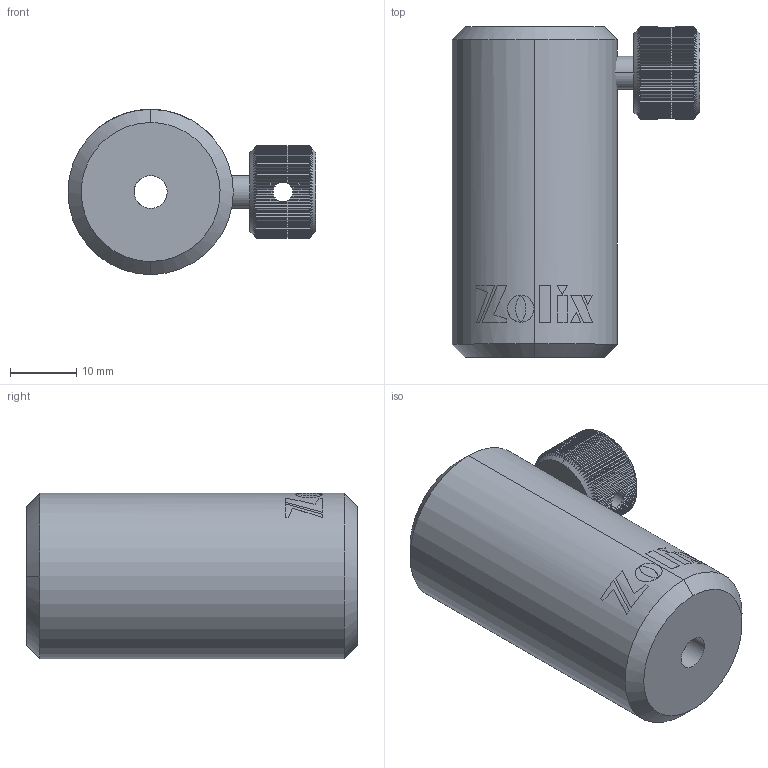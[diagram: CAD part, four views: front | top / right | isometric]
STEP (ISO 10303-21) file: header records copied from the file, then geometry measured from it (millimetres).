
FILE_DESCRIPTION (( 'STEP AP203' ), '1' );
FILE_NAME ('PHSH-2.STEP', '2019-05-10T02:26:00', ( '' ), ( '' ), 'SwSTEP 2.0', 'SolidWorks 2016', '' );
FILE_SCHEMA (( 'CONFIG_CONTROL_DESIGN' ));
Length unit declared in the file: millimetre
Products named in the file (1): PHSH-2
Bounding box: 37.5 x 50 x 25 mm (x, y, z)
Surface area: 7341.8 mm2 (no closed solid volume)
Topology: 0 solids, 2 shells, 362 faces, 1155 edges, 806 vertices
Faces by surface type: plane 214, cylinder 127, bspline 13, cone 8
Entity records: 13992 total; most frequent: CARTESIAN_POINT 4715, ORIENTED_EDGE 2304, DIRECTION 1442, EDGE_CURVE 1155, VERTEX_POINT 806, B_SPLINE_CURVE_WITH_KNOTS 586, AXIS2_PLACEMENT_3D 555, EDGE_LOOP 377
